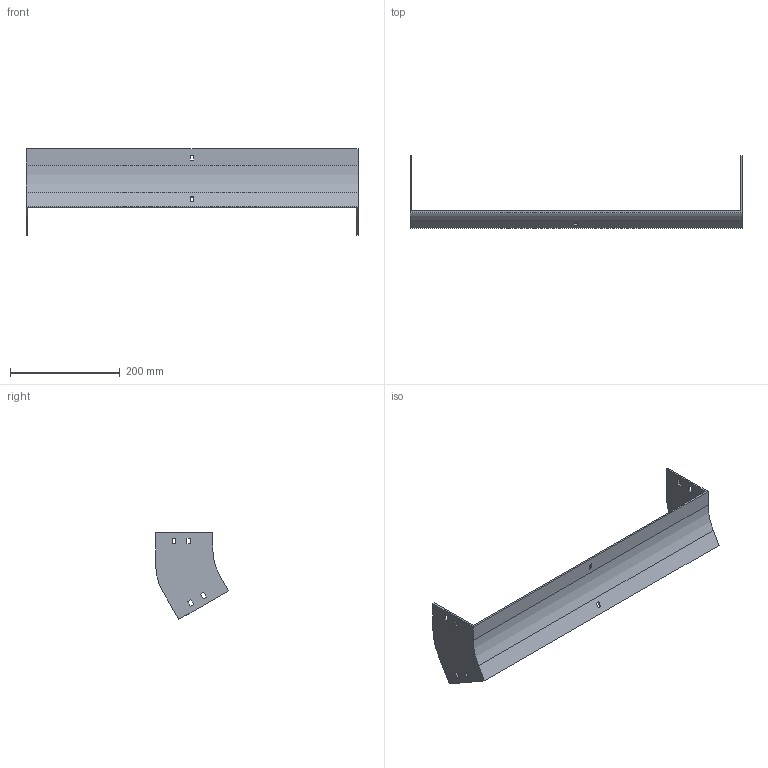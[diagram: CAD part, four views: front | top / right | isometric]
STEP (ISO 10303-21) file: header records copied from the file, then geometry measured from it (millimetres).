
FILE_DESCRIPTION (( 'STEP AP214' ), '1' );
FILE_NAME ('35F1D600.step', '2025-02-21T12:49:08', ( '' ), ( '' ), 'SwSTEP 2.0', 'SolidWorks 2023', '' );
FILE_SCHEMA (( 'AUTOMOTIVE_DESIGN' ));
Length unit declared in the file: millimetre
Products named in the file (1): 35F1D600
Bounding box: 604 x 132.4 x 157.98 mm (x, y, z)
Volume: 337301.4 mm3; surface area: 200717.9 mm2
Topology: 1 solids, 1 shells, 58 faces, 168 edges, 112 vertices
Faces by surface type: plane 54, cylinder 4
Entity records: 1943 total; most frequent: CARTESIAN_POINT 339, ORIENTED_EDGE 336, DIRECTION 294, EDGE_CURVE 168, VECTOR 160, LINE 160, VERTEX_POINT 112, EDGE_LOOP 78
